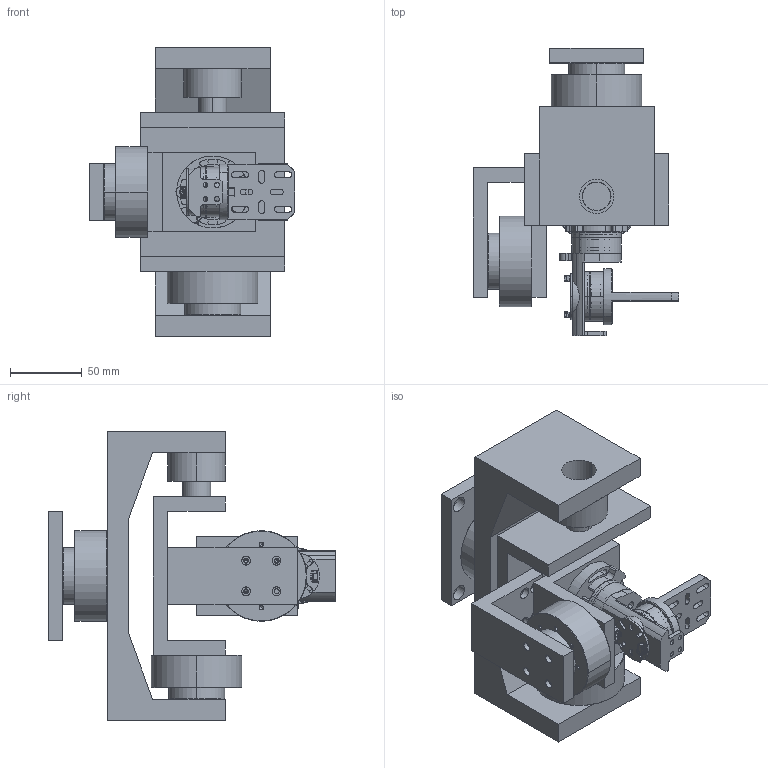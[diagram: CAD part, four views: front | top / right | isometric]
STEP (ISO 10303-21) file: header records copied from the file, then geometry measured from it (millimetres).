
FILE_DESCRIPTION (( 'STEP AP214' ), '1' );
FILE_NAME ('三轴一级增稳云台.STEP', '2026-10-19T05:16:46', ( '' ), ( '' ), 'SwSTEP 2.0', 'SolidWorks 2024', '' );
FILE_SCHEMA (( 'AUTOMOTIVE_DESIGN' ));
Length unit declared in the file: millimetre
Products named in the file (23): 直流无刷电机2804-径向磁铁(2)_1.STEP; 直流无刷电机2804-定子(2)_1.STEP; 转子磁铁(2)_1.STEP; 2804电机转子组件(2)_1.STEP; 2804线圈(2)_1.STEP; MZ128ZZ深沟球轴承(2)_1.STEP; 2804直流无刷总装配体-螺纹固定款(2)_1.STEP; 转子壳(2)_1.STEP; 轴1固定座; GM5208-12(带AS5048A编码器); 一级转台_1.STEP; 轴承; 转子轴(2)_1.STEP; 三轴一级增稳云台; AS5600磁编码器-圆_1.STEP; 轴1连接座; 二级转台_1.STEP; 二维云台总装配体.STEP; 底座_1.STEP; 2804直流无刷总装配体-螺纹固定款_1.STEP; 轴3连接座; 轴3固定座; 轴2连接座
Assembly tree (27 placements, depth 6):
  三轴一级增稳云台
    GM5208-12(带AS5048A编码器)  x3
    二维云台总装配体.STEP
      2804直流无刷总装配体-螺纹固定款_1.STEP  x2
        2804直流无刷总装配体-螺纹固定款(2)_1.STEP
          2804电机转子组件(2)_1.STEP
            转子壳(2)_1.STEP
            转子轴(2)_1.STEP
            转子磁铁(2)_1.STEP
          直流无刷电机2804-定子(2)_1.STEP
          直流无刷电机2804-径向磁铁(2)_1.STEP
          2804线圈(2)_1.STEP
          MZ128ZZ深沟球轴承(2)_1.STEP  x2
      底座_1.STEP
      AS5600磁编码器-圆_1.STEP  x2
      一级转台_1.STEP
      二级转台_1.STEP
    轴3固定座
    轴3连接座
    轴2连接座
    轴1固定座
    轴1连接座
    轴承
Bounding box: 142.7 x 199.38 x 201.4 mm (x, y, z)
Volume: 1140790.3 mm3; surface area: 267908.8 mm2
Topology: 140 solids, 140 shells, 5414 faces, 13670 edges, 8600 vertices
Faces by surface type: plane 2803, cylinder 1171, bspline 772, cone 376, torus 180, sphere 112
Entity records: 96541 total; most frequent: CARTESIAN_POINT 25891, ORIENTED_EDGE 14758, DIRECTION 13404, EDGE_CURVE 7379, VECTOR 4838, LINE 4838, VERTEX_POINT 4720, AXIS2_PLACEMENT_3D 4283
